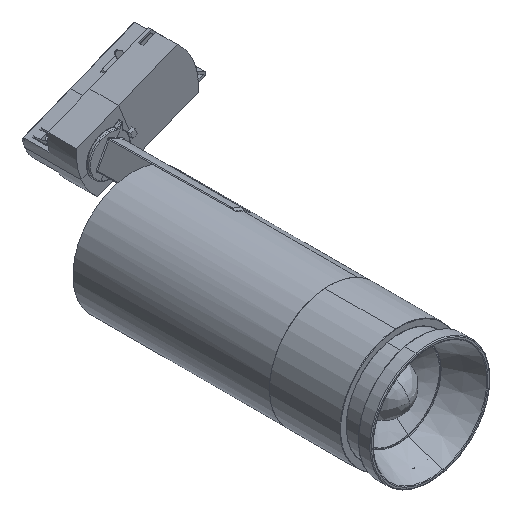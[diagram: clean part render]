
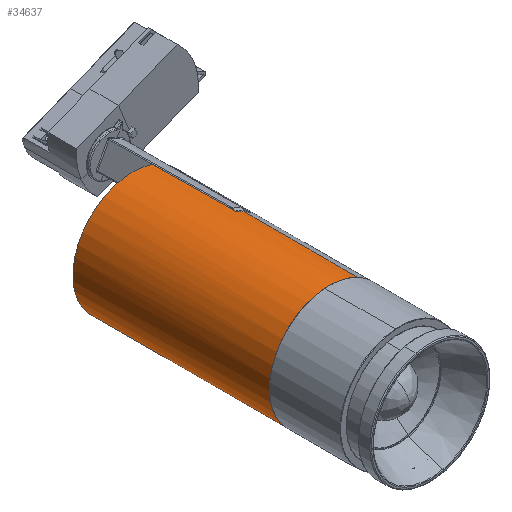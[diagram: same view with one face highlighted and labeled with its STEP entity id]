
A CAD part, isometric view. The second image highlights one B-rep face of the part: STEP entity #34637.
In plain terms, the highlighted cylindrical face has radius 36.4 mm (diameter 72.8 mm), a partial arc.
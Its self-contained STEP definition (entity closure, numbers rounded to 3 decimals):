
#3451 = CARTESIAN_POINT ( 'NONE',  ( 3.82, 50.5, 36.199 ) ) ;
#6236 = B_SPLINE_CURVE_WITH_KNOTS ( 'NONE', 3,
 ( #3451, #98971, #119385, #268085, #214908, #266519, #51977, #196053 ),
 .UNSPECIFIED., .F., .F.,
 ( 4, 2, 2, 4 ),
 ( 0., 0., 0.001, 0.002 ),
 .UNSPECIFIED. ) ;
#6293 = ORIENTED_EDGE ( 'NONE', *, *, #303432, .T. ) ;
#6605 = CARTESIAN_POINT ( 'NONE',  ( 5.474, 16.473, 35.988 ) ) ;
#9315 = ORIENTED_EDGE ( 'NONE', *, *, #226908, .T. ) ;
#12773 = CARTESIAN_POINT ( 'NONE',  ( 5.8, 0., 35.935 ) ) ;
#33418 = VERTEX_POINT ( 'NONE', #214972 ) ;
#34637 = ADVANCED_FACE ( 'NONE', ( #307520 ), #144620, .T. ) ;
#39520 = ORIENTED_EDGE ( 'NONE', *, *, #278793, .F. ) ;
#51093 = EDGE_CURVE ( 'NONE', #265576, #172530, #243891, .T. ) ;
#51246 = VERTEX_POINT ( 'NONE', #132746 ) ;
#51977 = CARTESIAN_POINT ( 'NONE',  ( 4.814, 49.781, 36.08 ) ) ;
#57678 = VECTOR ( 'NONE', #257136, 1000. ) ;
#58243 = CARTESIAN_POINT ( 'NONE',  ( 4.819, 49.52, 36.08 ) ) ;
#61384 = DIRECTION ( 'NONE',  ( 0., -1., 0. ) ) ;
#69897 = EDGE_CURVE ( 'NONE', #200018, #33418, #73413, .T. ) ;
#73413 = CIRCLE ( 'NONE', #193478, 36.4 ) ;
#93016 = CARTESIAN_POINT ( 'NONE',  ( 0., 146.176, 0. ) ) ;
#98971 = CARTESIAN_POINT ( 'NONE',  ( 3.95, 50.5, 36.185 ) ) ;
#102139 = CARTESIAN_POINT ( 'NONE',  ( 5.147, 32.981, 36.036 ) ) ;
#109888 = LINE ( 'NONE', #205424, #153827 ) ;
#111166 = ORIENTED_EDGE ( 'NONE', *, *, #69897, .F. ) ;
#119385 = CARTESIAN_POINT ( 'NONE',  ( 4.077, 50.475, 36.171 ) ) ;
#125000 = CARTESIAN_POINT ( 'NONE',  ( 0., 0., 0. ) ) ;
#131727 = AXIS2_PLACEMENT_3D ( 'NONE', #93016, #140017, #287087 ) ;
#132746 = CARTESIAN_POINT ( 'NONE',  ( 0., 119.4, -36.4 ) ) ;
#140017 = DIRECTION ( 'NONE',  ( 0., 1., 0. ) ) ;
#141219 = LINE ( 'NONE', #166248, #57678 ) ;
#144620 = CYLINDRICAL_SURFACE ( 'NONE', #131727, 36.4 ) ;
#148530 = DIRECTION ( 'NONE',  ( 0., 1., 0. ) ) ;
#153827 = VECTOR ( 'NONE', #274357, 1000. ) ;
#154215 = ORIENTED_EDGE ( 'NONE', *, *, #51093, .T. ) ;
#165056 = EDGE_CURVE ( 'NONE', #33418, #231879, #109888, .T. ) ;
#165118 = CARTESIAN_POINT ( 'NONE',  ( 0., 119.4, 36.4 ) ) ;
#166248 = CARTESIAN_POINT ( 'NONE',  ( 0., 146.176, -36.4 ) ) ;
#167063 = ORIENTED_EDGE ( 'NONE', *, *, #165056, .F. ) ;
#172530 = VERTEX_POINT ( 'NONE', #220116 ) ;
#176651 = DIRECTION ( 'NONE',  ( 0., 0., 1. ) ) ;
#184319 = CARTESIAN_POINT ( 'NONE',  ( 0., 119.4, 0. ) ) ;
#187716 = CIRCLE ( 'NONE', #212738, 36.4 ) ;
#193478 = AXIS2_PLACEMENT_3D ( 'NONE', #203904, #61384, #271294 ) ;
#196053 = CARTESIAN_POINT ( 'NONE',  ( 4.819, 49.52, 36.08 ) ) ;
#200018 = VERTEX_POINT ( 'NONE', #231914 ) ;
#203904 = CARTESIAN_POINT ( 'NONE',  ( 0., 50.5, 0. ) ) ;
#205424 = CARTESIAN_POINT ( 'NONE',  ( 0., 146.176, 36.4 ) ) ;
#212738 = AXIS2_PLACEMENT_3D ( 'NONE', #184319, #279798, #256331 ) ;
#214908 = CARTESIAN_POINT ( 'NONE',  ( 4.426, 50.305, 36.13 ) ) ;
#214972 = CARTESIAN_POINT ( 'NONE',  ( 0., 50.5, 36.4 ) ) ;
#220116 = CARTESIAN_POINT ( 'NONE',  ( 0., 0., -36.4 ) ) ;
#226908 = EDGE_CURVE ( 'NONE', #200018, #283414, #6236, .T. ) ;
#231879 = VERTEX_POINT ( 'NONE', #165118 ) ;
#231914 = CARTESIAN_POINT ( 'NONE',  ( 3.82, 50.5, 36.199 ) ) ;
#235718 = CARTESIAN_POINT ( 'NONE',  ( 5.8, 0., 35.935 ) ) ;
#241306 = EDGE_LOOP ( 'NONE', ( #154215, #6293, #39520, #167063, #111166, #9315, #279148 ) ) ;
#243891 = CIRCLE ( 'NONE', #289219, 36.4 ) ;
#256331 = DIRECTION ( 'NONE',  ( 0., 0., 1. ) ) ;
#257136 = DIRECTION ( 'NONE',  ( 0., 1., 0. ) ) ;
#264049 = EDGE_CURVE ( 'NONE', #265576, #283414, #308776, .T. ) ;
#265576 = VERTEX_POINT ( 'NONE', #235718 ) ;
#265908 = CARTESIAN_POINT ( 'NONE',  ( 4.819, 49.52, 36.08 ) ) ;
#266519 = CARTESIAN_POINT ( 'NONE',  ( 4.703, 50.035, 36.095 ) ) ;
#268085 = CARTESIAN_POINT ( 'NONE',  ( 4.317, 50.377, 36.143 ) ) ;
#271294 = DIRECTION ( 'NONE',  ( 0., 0., -1. ) ) ;
#274357 = DIRECTION ( 'NONE',  ( 0., 1., 0. ) ) ;
#278793 = EDGE_CURVE ( 'NONE', #231879, #51246, #187716, .T. ) ;
#279148 = ORIENTED_EDGE ( 'NONE', *, *, #264049, .F. ) ;
#279798 = DIRECTION ( 'NONE',  ( 0., 1., 0. ) ) ;
#283414 = VERTEX_POINT ( 'NONE', #265908 ) ;
#287087 = DIRECTION ( 'NONE',  ( 0., 0., 1. ) ) ;
#289219 = AXIS2_PLACEMENT_3D ( 'NONE', #125000, #148530, #176651 ) ;
#303432 = EDGE_CURVE ( 'NONE', #172530, #51246, #141219, .T. ) ;
#307520 = FACE_OUTER_BOUND ( 'NONE', #241306, .T. ) ;
#308776 =( BOUNDED_CURVE ( )  B_SPLINE_CURVE ( 3, ( #12773, #6605, #102139, #58243 ),
 .UNSPECIFIED., .F., .F. ) 
 B_SPLINE_CURVE_WITH_KNOTS ( ( 4, 4 ),
 ( 4.552, 4.58 ),
 .UNSPECIFIED. ) 
 CURVE ( )  GEOMETRIC_REPRESENTATION_ITEM ( )  RATIONAL_B_SPLINE_CURVE ( ( 1., 1., 1., 1. ) ) 
 REPRESENTATION_ITEM ( '' )  );
